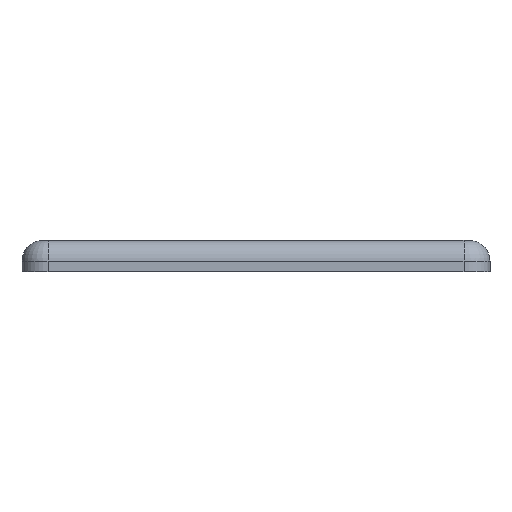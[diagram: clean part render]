
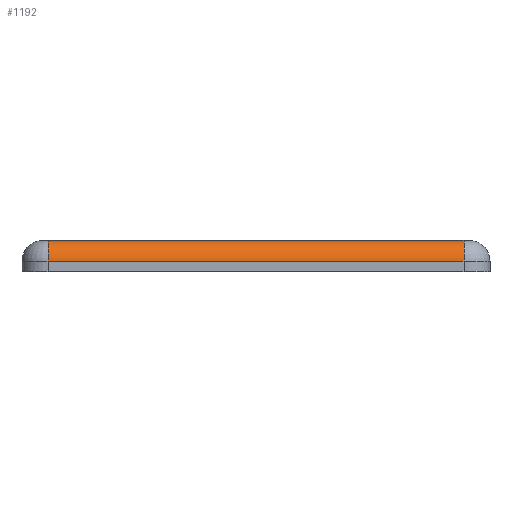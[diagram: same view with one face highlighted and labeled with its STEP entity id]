
A CAD part, front view. The second image highlights one B-rep face of the part: STEP entity #1192.
In plain terms, the highlighted cylindrical face has radius 2 mm (diameter 4 mm), a partial arc.
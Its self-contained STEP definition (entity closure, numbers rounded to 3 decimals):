
#429 = AXIS2_PLACEMENT_3D ( 'NONE', #3530, #2746, #5292 ) ;
#811 = CARTESIAN_POINT ( 'NONE',  ( -20., -20.5, 3. ) ) ;
#1148 = CARTESIAN_POINT ( 'NONE',  ( -20., -20.5, 1. ) ) ;
#1192 = ADVANCED_FACE ( 'NONE', ( #4516 ), #3674, .T. ) ;
#1669 = VERTEX_POINT ( 'NONE', #7440 ) ;
#1722 = ORIENTED_EDGE ( 'NONE', *, *, #5653, .F. ) ;
#1881 = CARTESIAN_POINT ( 'NONE',  ( 20., -22.5, 1. ) ) ;
#1967 = CIRCLE ( 'NONE', #4782, 2. ) ;
#2746 = DIRECTION ( 'NONE',  ( 1., 0., 0. ) ) ;
#3088 = CARTESIAN_POINT ( 'NONE',  ( 20., -20.5, 1. ) ) ;
#3115 = CARTESIAN_POINT ( 'NONE',  ( -22.5, -22.5, 1. ) ) ;
#3123 = AXIS2_PLACEMENT_3D ( 'NONE', #1148, #4319, #6706 ) ;
#3317 = VERTEX_POINT ( 'NONE', #811 ) ;
#3520 = DIRECTION ( 'NONE',  ( 1., 0., 0. ) ) ;
#3530 = CARTESIAN_POINT ( 'NONE',  ( 0., -20.5, 1. ) ) ;
#3674 = CYLINDRICAL_SURFACE ( 'NONE', #429, 2. ) ;
#3937 = ORIENTED_EDGE ( 'NONE', *, *, #6348, .F. ) ;
#4072 = EDGE_LOOP ( 'NONE', ( #7327, #1722, #3937, #5363 ) ) ;
#4319 = DIRECTION ( 'NONE',  ( 1., 0., 0. ) ) ;
#4457 = CIRCLE ( 'NONE', #3123, 2. ) ;
#4516 = FACE_OUTER_BOUND ( 'NONE', #4072, .T. ) ;
#4782 = AXIS2_PLACEMENT_3D ( 'NONE', #3088, #10173, #6839 ) ;
#5076 = LINE ( 'NONE', #6736, #8271 ) ;
#5292 = DIRECTION ( 'NONE',  ( 0., 1., 0. ) ) ;
#5363 = ORIENTED_EDGE ( 'NONE', *, *, #6276, .F. ) ;
#5653 = EDGE_CURVE ( 'NONE', #7299, #1669, #10102, .T. ) ;
#6276 = EDGE_CURVE ( 'NONE', #3317, #7481, #5076, .T. ) ;
#6348 = EDGE_CURVE ( 'NONE', #7481, #7299, #1967, .T. ) ;
#6706 = DIRECTION ( 'NONE',  ( 0., 0., -1. ) ) ;
#6736 = CARTESIAN_POINT ( 'NONE',  ( 0., -20.5, 3. ) ) ;
#6839 = DIRECTION ( 'NONE',  ( 0., 0., -1. ) ) ;
#7009 = DIRECTION ( 'NONE',  ( -1., 0., 0. ) ) ;
#7299 = VERTEX_POINT ( 'NONE', #1881 ) ;
#7327 = ORIENTED_EDGE ( 'NONE', *, *, #8154, .T. ) ;
#7403 = CARTESIAN_POINT ( 'NONE',  ( 20., -20.5, 3. ) ) ;
#7440 = CARTESIAN_POINT ( 'NONE',  ( -20., -22.5, 1. ) ) ;
#7481 = VERTEX_POINT ( 'NONE', #7403 ) ;
#8154 = EDGE_CURVE ( 'NONE', #3317, #1669, #4457, .T. ) ;
#8271 = VECTOR ( 'NONE', #3520, 1000. ) ;
#8863 = VECTOR ( 'NONE', #7009, 1000. ) ;
#10102 = LINE ( 'NONE', #3115, #8863 ) ;
#10173 = DIRECTION ( 'NONE',  ( 1., 0., 0. ) ) ;
